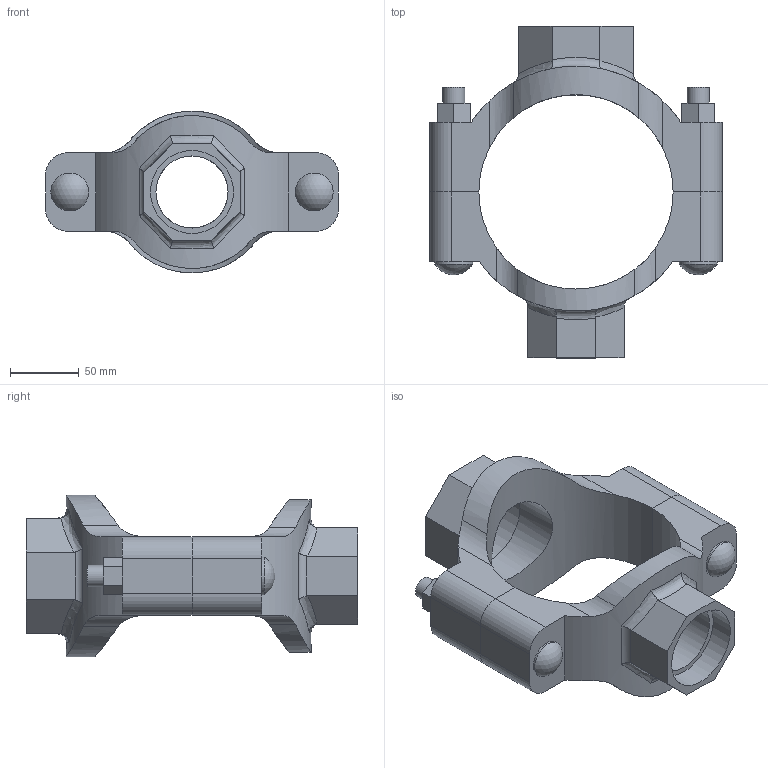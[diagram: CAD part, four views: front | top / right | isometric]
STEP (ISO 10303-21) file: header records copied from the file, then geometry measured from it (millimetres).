
FILE_DESCRIPTION(/* description */ ('VIC MECH-T BRANCH OUTLET CROSS STYLE 920N (THD)','CAx-IF Rec.Pracs.---Representation and Presentation of Product Manufacturing Information (PMI)---4.0---2014-10-13'),/* implementation_level */ '2;1');
FILE_NAME(/* name */ 'C:\Users\Vjadhav\AppData\Roaming\Autodesk\ApplicationPlugins\Back Up\Victaulic_IPS_Mechanical-Cross Outlet_Style 920N (FPT)\Victaulic_IPS_Mechanical-Cross Outlet_05.0x02.5x02.0 (125x65x50).stp',/* time_stamp */ '2020-08-06T18:59:13+05:00',/* author */ ('Vjadhav'),/* organization */ ('Victaulic'),/* preprocessor_version */ 'ST-DEVELOPER v17.2',/* originating_system */ 'Autodesk Inventor 2019',/* authorisation */ '');
FILE_SCHEMA (('AP242_MANAGED_MODEL_BASED_3D_ENGINEERING_MIM_LF { 1 0 10303 442 1 1 4 }'));
Length unit declared in the file: inch
Products named in the file (3): 920NT-05.0x02.5x02.0; 920T-05.0x02.5; 920T-05.0x02.0
Assembly tree (2 placements, depth 2):
  920NT-05.0x02.5x02.0
    920T-05.0x02.5
    920T-05.0x02.0
Bounding box: 212.85 x 241.3 x 117.56 mm (x, y, z)
Volume: 953294.3 mm3; surface area: 169956.5 mm2
Topology: 2 solids, 2 shells, 130 faces, 344 edges, 232 vertices
Faces by surface type: plane 68, cylinder 48, bspline 8, torus 4, sphere 2
Full cylindrical faces by diameter (mm): 15.875 x4, 27.496 x2, 52.387 x1, 60.325 x1, 62.738 x1, 73.025 x1
Entity records: 5224 total; most frequent: CARTESIAN_POINT 1765, ORIENTED_EDGE 688, DIRECTION 638, EDGE_CURVE 344, VERTEX_POINT 232, AXIS2_PLACEMENT_3D 227, LINE 184, VECTOR 184
